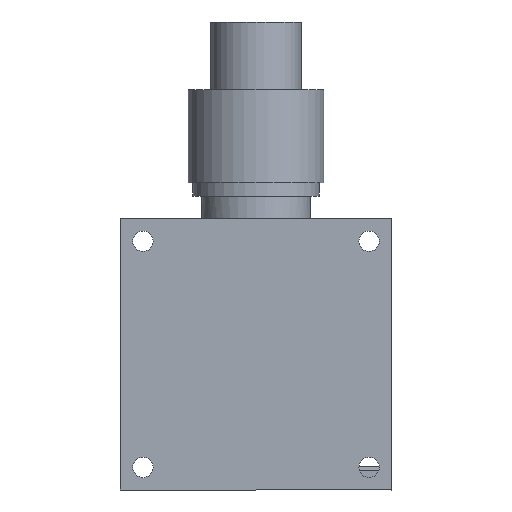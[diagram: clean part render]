
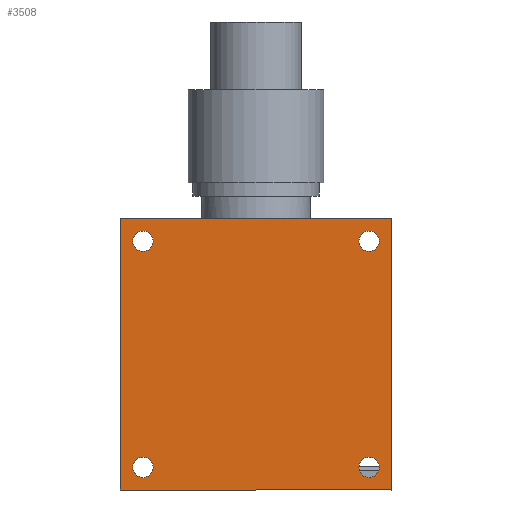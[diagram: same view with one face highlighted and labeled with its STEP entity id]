
A CAD part, front view. The second image highlights one B-rep face of the part: STEP entity #3508.
In plain terms, the highlighted planar face has unit normal (0, -1, 0).
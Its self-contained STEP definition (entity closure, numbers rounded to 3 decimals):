
#1471 = DIRECTION ( 'NONE',  ( -1., 0., 0. ) ) ;
#1472 = DIRECTION ( 'NONE',  ( 0., 1., 0. ) ) ;
#1473 = CARTESIAN_POINT ( 'NONE',  ( -25., 0., -25. ) ) ;
#1474 = AXIS2_PLACEMENT_3D ( 'NONE', #1473, #1472, #1471 ) ;
#1475 = CIRCLE ( 'NONE', #1474, 2.25 ) ;
#1631 = DIRECTION ( 'NONE',  ( -1., 0., 0. ) ) ;
#1632 = DIRECTION ( 'NONE',  ( 0., 1., 0. ) ) ;
#1633 = CARTESIAN_POINT ( 'NONE',  ( 25., 0., 25. ) ) ;
#1634 = AXIS2_PLACEMENT_3D ( 'NONE', #1633, #1632, #1631 ) ;
#1635 = CIRCLE ( 'NONE', #1634, 2.25 ) ;
#1659 = DIRECTION ( 'NONE',  ( -1., 0., 0. ) ) ;
#1660 = DIRECTION ( 'NONE',  ( 0., 1., 0. ) ) ;
#1716 = CIRCLE ( 'NONE', #1754, 2.25 ) ;
#1739 = CARTESIAN_POINT ( 'NONE',  ( -25., 0., 25. ) ) ;
#1740 = AXIS2_PLACEMENT_3D ( 'NONE', #1739, #1660, #1659 ) ;
#1741 = CIRCLE ( 'NONE', #1740, 2.25 ) ;
#1754 = AXIS2_PLACEMENT_3D ( 'NONE', #1761, #1888, #1773 ) ;
#1761 = CARTESIAN_POINT ( 'NONE',  ( 25., 0., -25. ) ) ;
#1773 = DIRECTION ( 'NONE',  ( -1., 0., 0. ) ) ;
#1796 = DIRECTION ( 'NONE',  ( -1., 0., 0. ) ) ;
#1797 = DIRECTION ( 'NONE',  ( 0., 1., 0. ) ) ;
#1798 = CARTESIAN_POINT ( 'NONE',  ( -25., 0., 25. ) ) ;
#1799 = AXIS2_PLACEMENT_3D ( 'NONE', #1798, #1797, #1796 ) ;
#1800 = CIRCLE ( 'NONE', #1799, 2.25 ) ;
#1823 = CARTESIAN_POINT ( 'NONE',  ( 22.75, 0., -25. ) ) ;
#1824 = CARTESIAN_POINT ( 'NONE',  ( 27.25, 0., -25. ) ) ;
#1825 = DIRECTION ( 'NONE',  ( -1., 0., 0. ) ) ;
#1826 = DIRECTION ( 'NONE',  ( 0., 1., 0. ) ) ;
#1836 = CARTESIAN_POINT ( 'NONE',  ( 25., 0., -25. ) ) ;
#1837 = AXIS2_PLACEMENT_3D ( 'NONE', #1836, #1826, #1825 ) ;
#1838 = CIRCLE ( 'NONE', #1837, 2.25 ) ;
#1845 = CARTESIAN_POINT ( 'NONE',  ( -27.25, 0., 25. ) ) ;
#1846 = CARTESIAN_POINT ( 'NONE',  ( -22.75, 0., 25. ) ) ;
#1888 = DIRECTION ( 'NONE',  ( 0., 1., 0. ) ) ;
#1923 = CARTESIAN_POINT ( 'NONE',  ( -27.25, 0., -25. ) ) ;
#1924 = CARTESIAN_POINT ( 'NONE',  ( -22.75, 0., -25. ) ) ;
#1925 = DIRECTION ( 'NONE',  ( -1., 0., 0. ) ) ;
#1926 = DIRECTION ( 'NONE',  ( 0., 1., 0. ) ) ;
#1927 = AXIS2_PLACEMENT_3D ( 'NONE', #1933, #1926, #1925 ) ;
#1928 = CIRCLE ( 'NONE', #1927, 2.25 ) ;
#1933 = CARTESIAN_POINT ( 'NONE',  ( -25., 0., -25. ) ) ;
#2132 = DIRECTION ( 'NONE',  ( -1., 0., 0. ) ) ;
#2133 = DIRECTION ( 'NONE',  ( 0., 1., 0. ) ) ;
#2134 = CARTESIAN_POINT ( 'NONE',  ( 30., 0., 30. ) ) ;
#2135 = AXIS2_PLACEMENT_3D ( 'NONE', #2134, #2133, #2132 ) ;
#2136 = PLANE ( 'NONE',  #2135 ) ;
#2137 = FACE_OUTER_BOUND ( 'NONE', #3464, .T. ) ;
#2138 = FACE_BOUND ( 'NONE', #3585, .T. ) ;
#2139 = FACE_BOUND ( 'NONE', #3445, .T. ) ;
#2140 = FACE_BOUND ( 'NONE', #3442, .T. ) ;
#2141 = FACE_BOUND ( 'NONE', #3509, .T. ) ;
#2207 = CARTESIAN_POINT ( 'NONE',  ( 22.75, 0., 25. ) ) ;
#2225 = CARTESIAN_POINT ( 'NONE',  ( 27.25, 0., 25. ) ) ;
#2246 = DIRECTION ( 'NONE',  ( -1., 0., 0. ) ) ;
#2247 = DIRECTION ( 'NONE',  ( 0., 1., 0. ) ) ;
#2248 = CARTESIAN_POINT ( 'NONE',  ( 25., 0., 25. ) ) ;
#2249 = AXIS2_PLACEMENT_3D ( 'NONE', #2248, #2247, #2246 ) ;
#2250 = CIRCLE ( 'NONE', #2249, 2.25 ) ;
#2329 = DIRECTION ( 'NONE',  ( 0., 0., 1. ) ) ;
#2330 = VECTOR ( 'NONE', #2329, 1000. ) ;
#2331 = CARTESIAN_POINT ( 'NONE',  ( 30., 0., 30. ) ) ;
#2332 = LINE ( 'NONE', #2331, #2330 ) ;
#2334 = CARTESIAN_POINT ( 'NONE',  ( 30., 0., -30. ) ) ;
#2345 = CARTESIAN_POINT ( 'NONE',  ( -30., 0., 30. ) ) ;
#2346 = VECTOR ( 'NONE', #2347, 1000. ) ;
#2347 = DIRECTION ( 'NONE',  ( -1., 0., 0. ) ) ;
#2348 = CARTESIAN_POINT ( 'NONE',  ( 30., 0., 30. ) ) ;
#2349 = LINE ( 'NONE', #2348, #2346 ) ;
#2350 = CARTESIAN_POINT ( 'NONE',  ( 30., 0., 30. ) ) ;
#2371 = LINE ( 'NONE', #2520, #2430 ) ;
#2429 = DIRECTION ( 'NONE',  ( 0., 0., -1. ) ) ;
#2430 = VECTOR ( 'NONE', #2429, 1000. ) ;
#2433 = CARTESIAN_POINT ( 'NONE',  ( -30., 0., -30. ) ) ;
#2438 = DIRECTION ( 'NONE',  ( 1., 0., 0. ) ) ;
#2439 = VECTOR ( 'NONE', #2438, 1000. ) ;
#2477 = CARTESIAN_POINT ( 'NONE',  ( 30., 0., -30. ) ) ;
#2478 = LINE ( 'NONE', #2477, #2439 ) ;
#2520 = CARTESIAN_POINT ( 'NONE',  ( -30., 0., 30. ) ) ;
#3184 = EDGE_CURVE ( 'NONE', #3600, #3539, #1635, .T. ) ;
#3200 = EDGE_CURVE ( 'NONE', #3392, #3391, #1475, .T. ) ;
#3210 = EDGE_CURVE ( 'NONE', #3278, #3277, #1716, .T. ) ;
#3217 = EDGE_CURVE ( 'NONE', #3271, #3272, #1741, .T. ) ;
#3271 = VERTEX_POINT ( 'NONE', #1846 ) ;
#3272 = VERTEX_POINT ( 'NONE', #1845 ) ;
#3276 = EDGE_CURVE ( 'NONE', #3277, #3278, #1838, .T. ) ;
#3277 = VERTEX_POINT ( 'NONE', #1824 ) ;
#3278 = VERTEX_POINT ( 'NONE', #1823 ) ;
#3325 = EDGE_CURVE ( 'NONE', #3272, #3271, #1800, .T. ) ;
#3390 = EDGE_CURVE ( 'NONE', #3391, #3392, #1928, .T. ) ;
#3391 = VERTEX_POINT ( 'NONE', #1924 ) ;
#3392 = VERTEX_POINT ( 'NONE', #1923 ) ;
#3440 = ORIENTED_EDGE ( 'NONE', *, *, #3325, .T. ) ;
#3441 = ORIENTED_EDGE ( 'NONE', *, *, #3217, .T. ) ;
#3442 = EDGE_LOOP ( 'NONE', ( #3443, #3444 ) ) ;
#3443 = ORIENTED_EDGE ( 'NONE', *, *, #3184, .T. ) ;
#3444 = ORIENTED_EDGE ( 'NONE', *, *, #3511, .T. ) ;
#3445 = EDGE_LOOP ( 'NONE', ( #3446, #3584 ) ) ;
#3446 = ORIENTED_EDGE ( 'NONE', *, *, #3210, .T. ) ;
#3463 = ORIENTED_EDGE ( 'NONE', *, *, #3390, .T. ) ;
#3464 = EDGE_LOOP ( 'NONE', ( #3465, #3581, #3615, #3618 ) ) ;
#3465 = ORIENTED_EDGE ( 'NONE', *, *, #3466, .T. ) ;
#3466 = EDGE_CURVE ( 'NONE', #3467, #3580, #2332, .T. ) ;
#3467 = VERTEX_POINT ( 'NONE', #2334 ) ;
#3508 = ADVANCED_FACE ( 'NONE', ( #2141, #2140, #2139, #2138, #2137 ), #2136, .F. ) ;
#3509 = EDGE_LOOP ( 'NONE', ( #3440, #3441 ) ) ;
#3511 = EDGE_CURVE ( 'NONE', #3539, #3600, #2250, .T. ) ;
#3539 = VERTEX_POINT ( 'NONE', #2225 ) ;
#3580 = VERTEX_POINT ( 'NONE', #2350 ) ;
#3581 = ORIENTED_EDGE ( 'NONE', *, *, #3582, .T. ) ;
#3582 = EDGE_CURVE ( 'NONE', #3580, #3583, #2349, .T. ) ;
#3583 = VERTEX_POINT ( 'NONE', #2345 ) ;
#3584 = ORIENTED_EDGE ( 'NONE', *, *, #3276, .T. ) ;
#3585 = EDGE_LOOP ( 'NONE', ( #3586, #3463 ) ) ;
#3586 = ORIENTED_EDGE ( 'NONE', *, *, #3200, .T. ) ;
#3600 = VERTEX_POINT ( 'NONE', #2207 ) ;
#3615 = ORIENTED_EDGE ( 'NONE', *, *, #3616, .T. ) ;
#3616 = EDGE_CURVE ( 'NONE', #3583, #3617, #2371, .T. ) ;
#3617 = VERTEX_POINT ( 'NONE', #2433 ) ;
#3618 = ORIENTED_EDGE ( 'NONE', *, *, #3619, .T. ) ;
#3619 = EDGE_CURVE ( 'NONE', #3617, #3467, #2478, .T. ) ;
